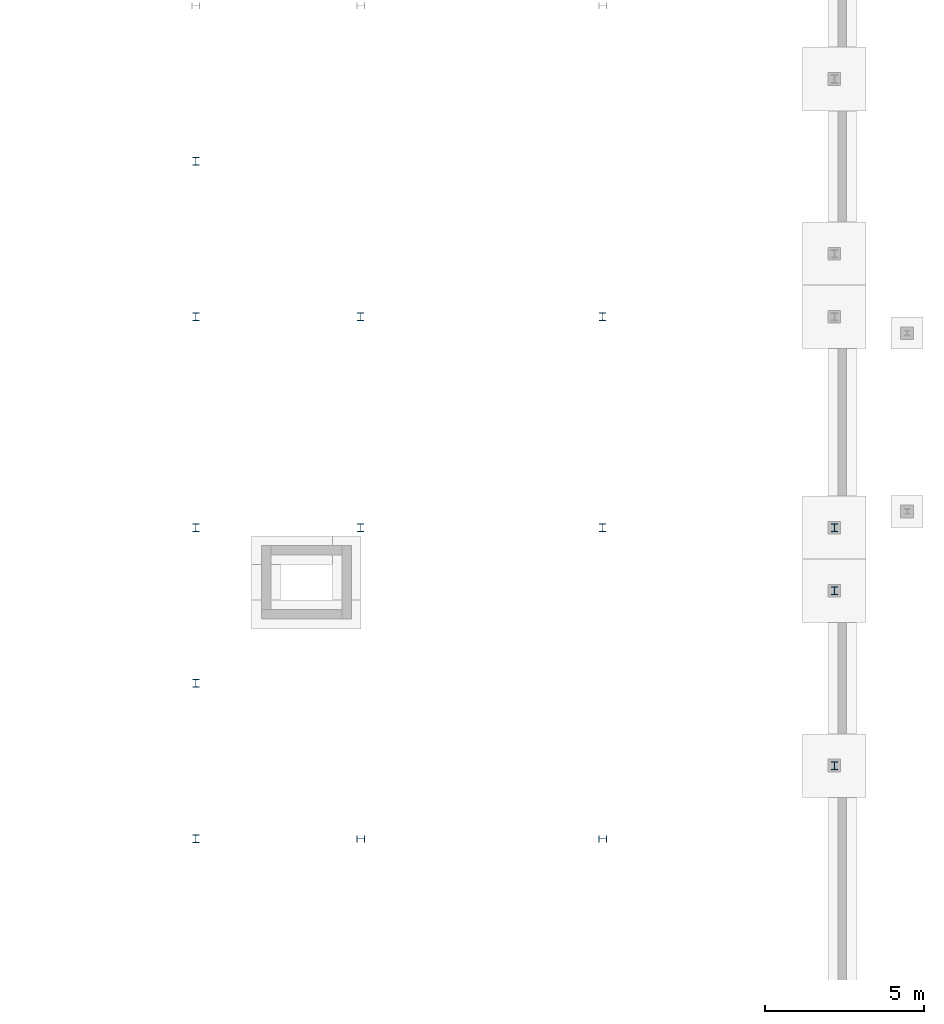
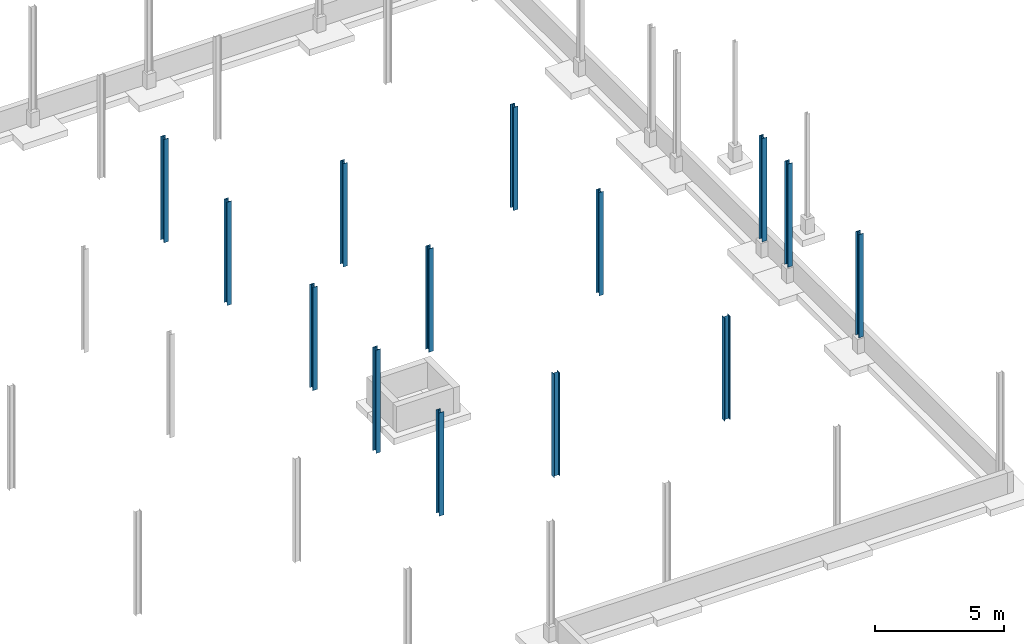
# One storey, part 6 of 11: 14 columns.
"""IFC2X3 building model written with IfcOpenShell, lengths in metres."""

from ifc_helpers import new_model, entity, si_unit, converted_unit, frame, frame_2d, origin, place, context, project, spatial, polyline, circle_curve, parameter, trimmed, segment, composite_curve, outline, extrude, source, transform, mapped, material, type_object, type_shapes, element, save


model = new_model("IFC2X3")

# Units and contexts
model_context = context("Model", 3, precision=1e-09, world=origin())
plan_context = context("Plan", 3, precision=1e-09, world=origin())
ifc_project = project(units=[si_unit("LENGTHUNIT", "METRE"), si_unit("AREAUNIT", "SQUARE_METRE"), si_unit("VOLUMEUNIT", "CUBIC_METRE"), converted_unit("PLANEANGLEUNIT", "DEGREE", entity("IfcRatioMeasure", 0.01745329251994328), si_unit("PLANEANGLEUNIT", "RADIAN"), dimensions=[0, 0, 0, 0, 0, 0, 0]), si_unit("TIMEUNIT", "SECOND")], contexts=[model_context, plan_context])

# Site, building, storey
site_placement = place(None, origin())
site = spatial("IfcSite", under=ifc_project, at=site_placement, Name="Default", CompositionType="ELEMENT")
building_placement = place(site_placement, origin())
building = spatial("IfcBuilding", under=site, at=building_placement, CompositionType="ELEMENT")
storey_placement = place(building_placement, frame((0.0, 0.0, -1.0)))
storey = spatial("IfcBuildingStorey", under=building, at=storey_placement, Name="TOF Footing", CompositionType="ELEMENT", Elevation=-1.000000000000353)

# Columns
ifc_material = material(Name="Metal - Steel - 345 MPa")
column_type = type_object("IfcColumnType", Name="W250X67", PredefinedType="COLUMN")
shared_shape = source(origin(), model_context, "Body", "SweptSolid", [
    extrude(outline(composite_curve([segment(polyline([(-0.102, -0.1285), (0.102, -0.1285)]), True, "CONTINUOUS"), segment(polyline([(0.102, -0.1285), (0.102, -0.1128)]), True, "CONTINUOUS"), segment(polyline([(0.102, -0.1128), (0.02174999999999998, -0.1128)]), True, "CONTINUOUS"), segment(trimmed(circle_curve(frame_2d((0.02174999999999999, -0.09549999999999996), x_axis=(-1.0, 0.0)), 0.0173), [parameter(4.071109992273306e-13)], [parameter(90.00000000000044)], True, "PARAMETER"), False, "CONTINUOUS"), segment(polyline([(0.004449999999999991, -0.09549999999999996), (0.004449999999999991, 0.09549999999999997)]), True, "CONTINUOUS"), segment(trimmed(circle_curve(frame_2d((0.02174999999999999, 0.09549999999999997), x_axis=(-1.0, 0.0)), 0.0173), [parameter(270.0000000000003)], [parameter(3.562221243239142e-13)], True, "PARAMETER"), False, "CONTINUOUS"), segment(polyline([(0.02174999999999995, 0.1128), (0.102, 0.1128)]), True, "CONTINUOUS"), segment(polyline([(0.102, 0.1128), (0.102, 0.1285)]), True, "CONTINUOUS"), segment(polyline([(0.102, 0.1285), (-0.102, 0.1285)]), True, "CONTINUOUS"), segment(polyline([(-0.102, 0.1285), (-0.102, 0.1128)]), True, "CONTINUOUS"), segment(polyline([(-0.102, 0.1128), (-0.02174999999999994, 0.1128)]), True, "CONTINUOUS"), segment(trimmed(circle_curve(frame_2d((-0.02175000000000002, 0.09549999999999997), x_axis=(-1.0, 0.0)), 0.0173), [parameter(179.9999999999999)], [parameter(269.9999999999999)], True, "PARAMETER"), False, "CONTINUOUS"), segment(polyline([(-0.004450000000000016, 0.09550000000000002), (-0.004450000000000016, -0.09549999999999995)]), True, "CONTINUOUS"), segment(trimmed(circle_curve(frame_2d((-0.02175000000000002, -0.09549999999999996), x_axis=(-1.0, 0.0)), 0.0173), [parameter(90.00000000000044)], [parameter(180.0000000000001)], True, "PARAMETER"), False, "CONTINUOUS"), segment(polyline([(-0.02175000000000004, -0.1128), (-0.102, -0.1128)]), True, "CONTINUOUS"), segment(polyline([(-0.102, -0.1128), (-0.102, -0.1285)]), True, "CONTINUOUS")], self_intersect=False)), frame((0.0, 0.0, -0.305000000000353), z_axis=(0.0, 0.0, 1.0), x_axis=(-1.0, 0.0, 0.0)), (0.0, 0.0, 1.0), 4.87500000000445),
])
type_shapes(column_type, [shared_shape])
for number, where, z_axis, x_axis in (
    (1, (-14.87997499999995, 28.38000000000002, 1.0), (0.0, 0.0, 1.0), (-1.0, 0.0, 0.0)),
    (2, (-14.87997499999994, 35.00999999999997, 1.0), (0.0, 0.0, 1.0), (-1.0, 0.0, 0.0)),
    (3, (-7.280000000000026, 35.00999999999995, 1.0), (0.0, 0.0, 1.0), (-1.0, 0.0, 0.0)),
    (4, (-20.05999999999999, 39.89537920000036, 1.0), (0.0, 0.0, 1.0), (-1.0, 0.0, 0.0)),
    (5, (-7.280000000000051, 18.61, 1.0), (0.0, 0.0, 1.0), (0.0, -1.0, 0.0)),
    (6, (-20.06000000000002, 18.61000000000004, 1.0), (0.0, 0.0, 1.0), (-1.0, 0.0, 0.0)),
):
    element("IfcColumn", number, at=place(storey_placement, frame(where, z_axis=z_axis, x_axis=x_axis)), inside=storey, type_object=column_type, material=ifc_material, Name="M_W-Wide Flange-Column:W250X67:W250X67", ObjectType="W250X67", context=model_context, shape_type="MappedRepresentation", body=[
        mapped(shared_shape, transform((0.0, 0.0, 0.0), scale=1.0)),
    ])
column_1_placement = place(storey_placement, frame((0.0, 28.37999999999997, 1.0)))
element("IfcColumn", 7, at=column_1_placement, inside=storey, type_object=column_type, material=ifc_material, Name="M_W-Wide Flange-Column:W250X67:W250X67", ObjectType="W250X67", context=model_context, shape_type="MappedRepresentation", body=[
    mapped(shared_shape, transform((0.0, 0.0, 0.0), scale=1.0)),
])
column_2_placement = place(storey_placement, frame((-20.06, 35.00999999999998, 1.0), z_axis=(0.0, 0.0, 1.0), x_axis=(-1.0, 0.0, 0.0)))
element("IfcColumn", 8, at=column_2_placement, inside=storey, type_object=column_type, material=ifc_material, Name="M_W-Wide Flange-Column:W250X67:W250X67", ObjectType="W250X67", context=model_context, shape_type="MappedRepresentation", body=[
    mapped(shared_shape, transform((0.0, 0.0, 0.0), scale=1.0)),
])
for number, where in (
    (9, (0.0, 20.90889399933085, 1.0)),
    (10, (0.0, 26.39881580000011, 1.0)),
    (11, (-7.280000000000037, 28.38, 1.0)),
):
    element("IfcColumn", number, at=place(storey_placement, frame(where)), inside=storey, type_object=column_type, material=ifc_material, Name="M_W-Wide Flange-Column:W250X67:W250X67", ObjectType="W250X67", context=model_context, shape_type="MappedRepresentation", body=[
        mapped(shared_shape, transform((0.0, 0.0, 0.0), scale=1.0)),
    ])
for number, where, z_axis, x_axis in (
    (12, (-14.87997499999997, 18.61000000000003, 1.0), (0.0, 0.0, 1.0), (0.0, -1.0, 0.0)),
    (13, (-20.06000000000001, 23.49409120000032, 1.0), (0.0, 0.0, 1.0), (-1.0, 0.0, 0.0)),
    (14, (-20.06000000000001, 28.38000000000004, 1.0), (0.0, 0.0, 1.0), (-1.0, 0.0, 0.0)),
):
    element("IfcColumn", number, at=place(storey_placement, frame(where, z_axis=z_axis, x_axis=x_axis)), inside=storey, type_object=column_type, material=ifc_material, Name="M_W-Wide Flange-Column:W250X67:W250X67", ObjectType="W250X67", context=model_context, shape_type="MappedRepresentation", body=[
        mapped(shared_shape, transform((0.0, 0.0, 0.0), scale=1.0)),
    ])

save(model, "model.ifc")
